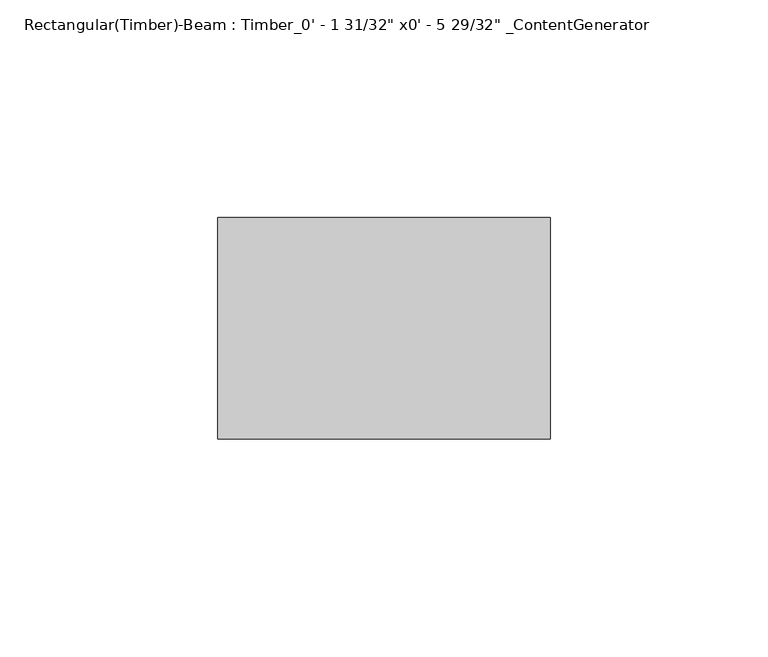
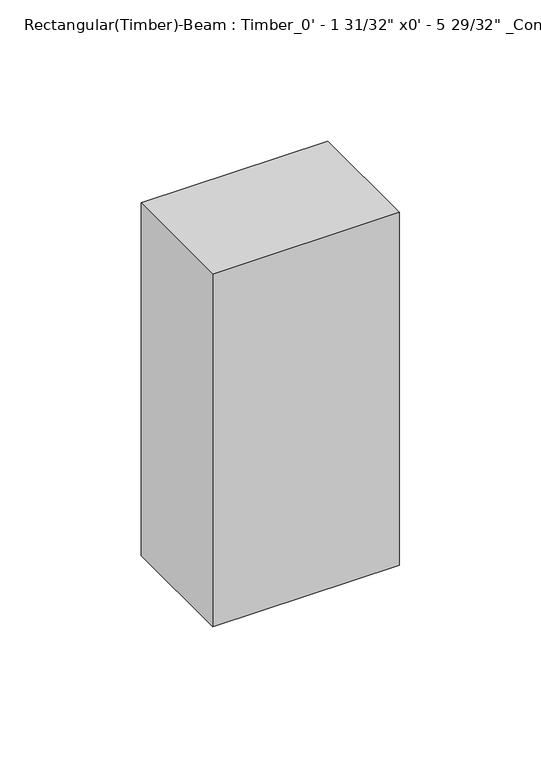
"""IFC4 building model written with IfcOpenShell, lengths in millimetres: beam geometry."""

from ifc_helpers import new_model, si_unit, frame, origin, place, context, project, spatial, polyline, outline, extrude, source, transform, mapped, element, save


def beam_e1398387(model_context):
    return source(origin(), model_context, "Body", "SweptSolid", [
        extrude(outline(polyline([(35.5649997, 25.4), (35.5649997, -25.4), (-40.6450003, -25.4), (-40.6450003, 25.4), (35.5649997, 25.4)])), frame((0.0, 0.0, -76.2), z_axis=(0.0, 0.0, 1.0), x_axis=(1.0, 0.0, 0.0)), (0.0, 0.0, 1.0), 152.4),
    ])


if __name__ == "__main__":
    model = new_model("IFC4")
    model_context = context("Model", 3, world=origin())
    ifc_project = project(units=[si_unit("LENGTHUNIT", "METRE", prefix="MILLI")], contexts=[model_context])
    site = spatial("IfcSite", under=ifc_project)
    building = spatial("IfcBuilding", under=site)
    placement = place(None, origin())
    beam_shape = beam_e1398387(model_context)
    element("IfcBeam", 1, ObjectType="Rectangular(Timber)-Beam : Timber_0' - 1 31/32\" x0' - 5 29/32\" _ContentGenerator", at=placement, inside=building, context=model_context, shape_type="MappedRepresentation", body=[
        mapped(beam_shape, transform((0.0, 0.0, 0.0), x_axis=(1.0, 0.0, 0.0), y_axis=(0.0, 1.0, 0.0), z_axis=(0.0, 0.0, 1.0))),
    ])
    save(model, "model.ifc")
